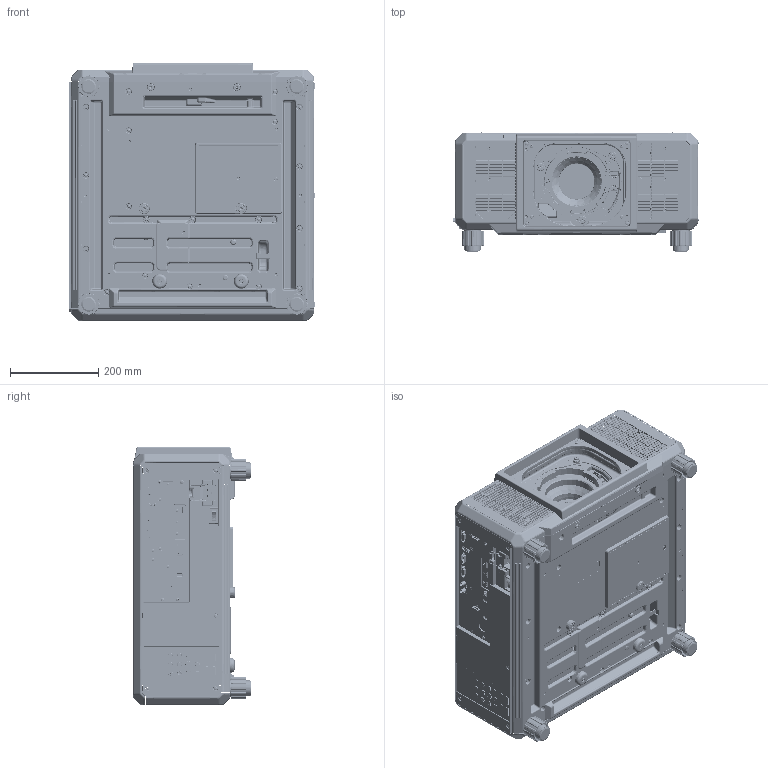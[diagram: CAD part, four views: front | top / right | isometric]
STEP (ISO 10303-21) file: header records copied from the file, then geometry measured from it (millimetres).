
FILE_DESCRIPTION(/* description */ (''),/* implementation_level */ '2;1');
FILE_NAME(/* name */ '01103331_ZA00_RQ25K_NONE LENS_FACE.stp',/* time_stamp */ '2022-12-06T10:21:55+09:00',/* author */ (''),/* organization */ (''),/* preprocessor_version */ 'ST-DEVELOPER v16',/* originating_system */ 'SIEMENS PLM Software NX 10.0',/* authorisation */ '');
FILE_SCHEMA (('AUTOMOTIVE_DESIGN { 1 0 10303 214 3 1 1 1 }'));
Products named in the file (1): 01103331_ZA00
Bounding box: 556.3 x 269 x 585 mm (x, y, z)
Surface area: 1902219.9 mm2 (no closed solid volume)
Topology: 0 solids, 2174 shells, 10632 faces, 47127 edges, 37997 vertices
Faces by surface type: plane 5226, cylinder 4176, torus 488, bspline 435, cone 184, sphere 121, extrusion 2
Full cylindrical faces by diameter (mm): 1.02 x2, 3 x1, 3.3 x1, 3.6 x2, 3.975 x1, 5 x2, 5.755 x1, 6 x2, 7 x2, 8 x2, 9.5 x2, 14.9 x3, 23.647 x1, 37.2 x4, 40 x4, 110.05 x1
Entity records: 575683 total; most frequent: CARTESIAN_POINT 132848, DIRECTION 77976, ORIENTED_EDGE 57710, EDGE_CURVE 46621, VERTEX_POINT 37838, VECTOR 26174, LINE 26172, AXIS2_PLACEMENT_3D 25901
